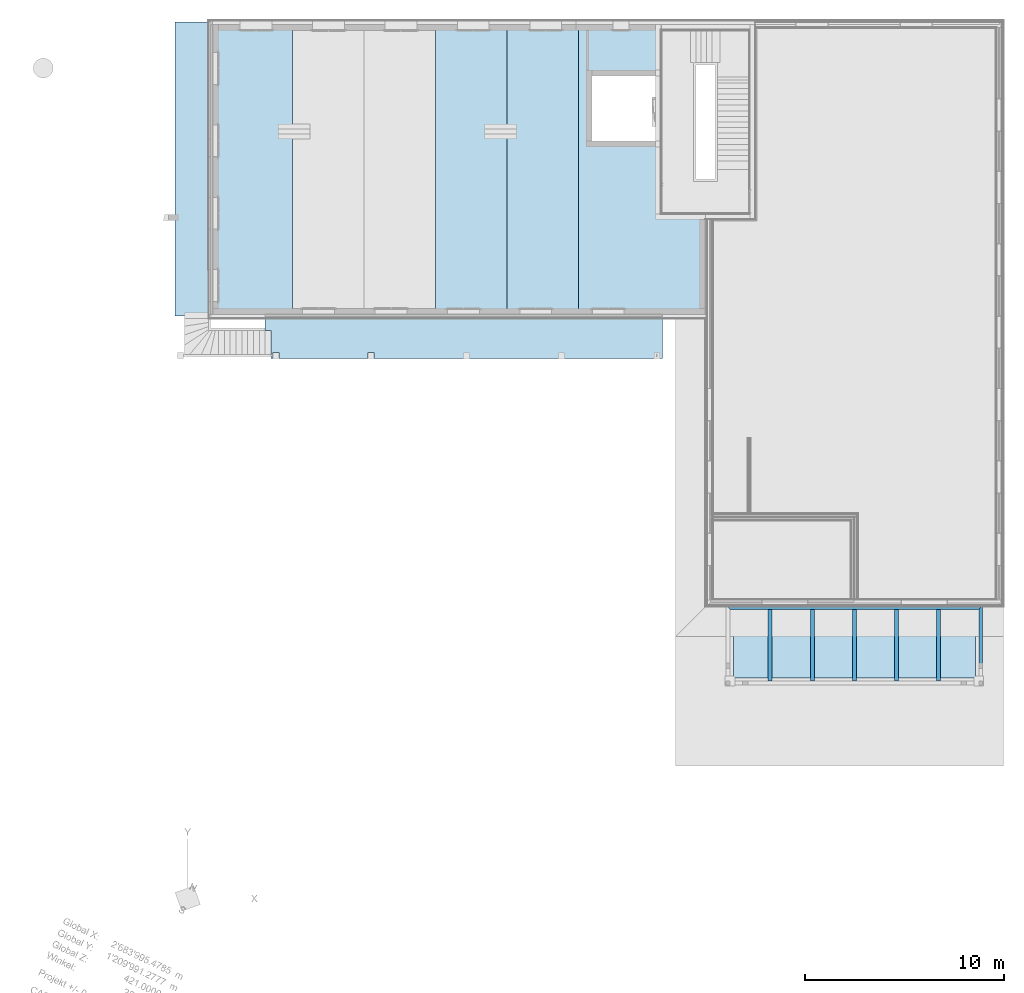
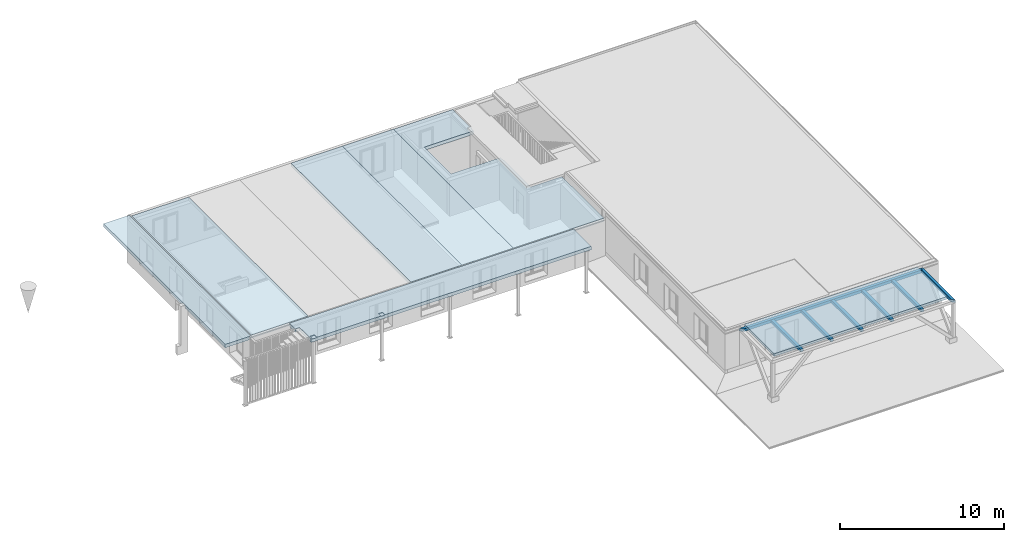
# One storey, part 2 of 20: 7 beams, 7 slabs.
"""IFC4 building model written with IfcOpenShell, lengths in millimetres."""

from ifc_helpers import new_model, entity, si_unit, converted_unit, derived_unit, direction, frame, origin_with_axes, place, context, subcontext, project, spatial, polygons, material, constituent, constituent_set, type_object, element, save


model = new_model("IFC4")

# Units and contexts
model_context = context("Model", 3, precision=0.01, world=origin_with_axes(), true_north=direction((0.0, 1.0)))
body_context = subcontext(model_context, "Body", "Model", "MODEL_VIEW")
ifc_project = project(units=[si_unit("LENGTHUNIT", "METRE", prefix="MILLI"), si_unit("AREAUNIT", "SQUARE_METRE"), si_unit("VOLUMEUNIT", "CUBIC_METRE"), converted_unit("PLANEANGLEUNIT", "DEGREE", entity("IfcPlaneAngleMeasure", 0.0174532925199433), si_unit("PLANEANGLEUNIT", "RADIAN"), dimensions=[0, 0, 0, 0, 0, 0, 0]), converted_unit("TIMEUNIT", "Year", entity("IfcTimeMeasure", 31557600.0), si_unit("TIMEUNIT", "SECOND"), dimensions=[0, 0, 1, 0, 0, 0, 0]), si_unit("MASSUNIT", "GRAM", prefix="KILO"), si_unit("THERMODYNAMICTEMPERATUREUNIT", "DEGREE_CELSIUS"), si_unit("LUMINOUSINTENSITYUNIT", "LUMEN"), si_unit("ENERGYUNIT", "JOULE", prefix="MEGA"), derived_unit("THERMALCONDUCTANCEUNIT", [(si_unit("POWERUNIT", "WATT"), 1), (si_unit("LENGTHUNIT", "METRE"), -1), (si_unit("THERMODYNAMICTEMPERATUREUNIT", "KELVIN"), -1)]), derived_unit("SPECIFICHEATCAPACITYUNIT", [(si_unit("ENERGYUNIT", "JOULE"), 1), (si_unit("MASSUNIT", "GRAM", prefix="KILO"), -1), (si_unit("THERMODYNAMICTEMPERATUREUNIT", "KELVIN"), -1)]), derived_unit("MASSDENSITYUNIT", [(si_unit("MASSUNIT", "GRAM", prefix="KILO"), 1), (si_unit("VOLUMEUNIT", "CUBIC_METRE"), -1)])], contexts=[model_context])

# Site, building, storey
site_placement = place(None, origin_with_axes())
site = spatial("IfcSite", under=ifc_project, at=site_placement, Name="Gelände", CompositionType="ELEMENT")
building_placement = place(site_placement, origin_with_axes())
building = spatial("IfcBuilding", under=site, at=building_placement, Name="Gebäude", CompositionType="ELEMENT")
storey_placement = place(building_placement, frame((0.0, 0.0, 5.198845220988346e-05), z_axis=(0.0, 0.0, 1.0), x_axis=(1.0, 0.0, 0.0)))
storey = spatial("IfcBuildingStorey", under=building, at=storey_placement, Name="EG", CompositionType="ELEMENT", Elevation=0.0)

# Beams
ifc_material_1 = material(Name="Massivholz")
beam_type = type_object("IfcBeamType", Name="Massivholz 200 x 200", PredefinedType="NOTDEFINED")
beam_1_placement = place(storey_placement, frame((21192.99747005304, 8318.597281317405, 3219.999948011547), z_axis=(0.0, 0.0, 1.0), x_axis=(-1.0, 0.0, 0.0)))
element("IfcBeam", 1, at=beam_1_placement, inside=storey, type_object=beam_type, material=ifc_material_1, Name="Unterzug-027", PredefinedType="NOTDEFINED", context=body_context, shape_type="Tessellation", body=[
    polygons([(-100.0000000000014, 0.0, -200.0000000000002), (-100.0000000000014, 3599.999999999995, -200.0000000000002), (99.99999999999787, 3599.999999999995, -200.0000000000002), (100.0000000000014, 0.0, -200.0000000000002), (-100.0000000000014, 0.0, 0.0), (-100.0000000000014, 3599.999999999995, 0.0), (99.99999999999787, 3599.999999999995, 0.0), (100.0000000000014, 0.0, 0.0)], [[[1, 2, 3, 4]], [[5, 6, 2, 1]], [[3, 2, 6, 7]], [[4, 3, 7, 8]], [[5, 1, 4, 8]], [[8, 7, 6, 5]]], closed=True),
])
for number, where, z_axis, x_axis, name in (
    (2, (27546.99741907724, 8318.597281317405, 3219.999948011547), (0.0, 0.0, 1.0), (-1.0, 0.0, 0.0), "Unterzug-027"),
    (3, (29664.99741907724, 8318.597281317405, 3219.999948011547), (0.0, 0.0, 1.0), (-1.0, 0.0, 0.0), "Unterzug-027"),
):
    element("IfcBeam", number, at=place(storey_placement, frame(where, z_axis=z_axis, x_axis=x_axis)), inside=storey, type_object=beam_type, material=ifc_material_1, Name=name, PredefinedType="NOTDEFINED", context=body_context, shape_type="Tessellation", body=[
        polygons([(100.0000000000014, 0.0, 0.0), (99.99999999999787, 3599.999999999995, 0.0), (-100.0000000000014, 3599.999999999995, 0.0), (-100.0000000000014, 0.0, 0.0), (100.0000000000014, 0.0, -200.0000000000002), (99.99999999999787, 3599.999999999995, -200.0000000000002), (-100.0000000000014, 3599.999999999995, -200.0000000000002), (-100.0000000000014, 0.0, -200.0000000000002)], [[[1, 2, 3, 4]], [[5, 6, 2, 1]], [[3, 2, 6, 7]], [[4, 3, 7, 8]], [[5, 1, 4, 8]], [[8, 7, 6, 5]]], closed=True),
    ])
beam_2_placement = place(storey_placement, frame((23310.99747005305, 8318.597281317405, 3219.999948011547), z_axis=(0.0, 0.0, 1.0), x_axis=(-1.0, 0.0, 0.0)))
element("IfcBeam", 4, at=beam_2_placement, inside=storey, type_object=beam_type, material=ifc_material_1, Name="Unterzug-027", PredefinedType="NOTDEFINED", context=body_context, shape_type="Tessellation", body=[
    polygons([(-100.0000000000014, 0.0, -200.0000000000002), (-100.0000000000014, 3599.999999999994, -200.0000000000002), (99.99999999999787, 3599.999999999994, -200.0000000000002), (100.0000000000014, 0.0, -200.0000000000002), (-100.0000000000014, 0.0, 0.0), (-100.0000000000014, 3599.999999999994, 0.0), (99.99999999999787, 3599.999999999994, 0.0), (100.0000000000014, 0.0, 0.0)], [[[1, 2, 3, 4]], [[5, 6, 2, 1]], [[3, 2, 6, 7]], [[4, 3, 7, 8]], [[5, 1, 4, 8]], [[8, 7, 6, 5]]], closed=True),
])
beam_3_placement = place(storey_placement, frame((25428.99744456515, 8318.597281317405, 3219.999948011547), z_axis=(0.0, 0.0, 1.0), x_axis=(-1.0, 0.0, 0.0)))
element("IfcBeam", 5, at=beam_3_placement, inside=storey, type_object=beam_type, material=ifc_material_1, Name="Unterzug-027", PredefinedType="NOTDEFINED", context=body_context, shape_type="Tessellation", body=[
    polygons([(-100.0000000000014, 0.0, -200.0000000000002), (-100.0000000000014, 3599.999999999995, -200.0000000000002), (99.99999999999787, 3599.999999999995, -200.0000000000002), (100.0000000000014, 0.0, -200.0000000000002), (-100.0000000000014, 0.0, 0.0), (-100.0000000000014, 3599.999999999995, 0.0), (99.99999999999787, 3599.999999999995, 0.0), (100.0000000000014, 0.0, 0.0)], [[[1, 2, 3, 4]], [[5, 6, 2, 1]], [[3, 2, 6, 7]], [[4, 3, 7, 8]], [[5, 1, 4, 8]], [[8, 7, 6, 5]]], closed=True),
])
beam_4_placement = place(storey_placement, frame((31882.9974188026, 8518.5972813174, 3219.999948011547), z_axis=(0.0, 0.0, 1.0), x_axis=(-1.0, 0.0, 0.0)))
element("IfcBeam", 6, at=beam_4_placement, inside=storey, type_object=beam_type, material=ifc_material_1, Name="Unterzug-027", PredefinedType="NOTDEFINED", context=body_context, shape_type="Tessellation", body=[
    polygons([(199.9999999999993, 199.9999999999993, 0.0), (199.9999999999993, 3800.000000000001, 0.0), (0.0, 4000.000000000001, 0.0), (0.0, 0.0, 0.0), (199.9999999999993, 199.9999999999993, -200.0000000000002), (199.9999999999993, 3800.000000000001, -200.0000000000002), (0.0, 4000.000000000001, -200.0000000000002), (0.0, 0.0, -200.0000000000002)], [[[1, 2, 3, 4]], [[5, 6, 2, 1]], [[3, 2, 6, 7]], [[4, 3, 7, 8]], [[5, 1, 4, 8]], [[8, 7, 6, 5]]], closed=True),
])
beam_5_placement = place(storey_placement, frame((31882.9974188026, 8518.5972813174, 3219.999948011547), z_axis=(0.0, 0.0, 1.0), x_axis=(0.0, 1.0, 0.0)))
element("IfcBeam", 7, at=beam_5_placement, inside=storey, type_object=beam_type, material=ifc_material_1, Name="Unterzug-027", PredefinedType="NOTDEFINED", context=body_context, shape_type="Tessellation", body=[
    polygons([(-199.9999999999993, 199.9999999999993, -200.0000000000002), (-199.9999999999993, 12707.99994874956, -200.0000000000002), (0.0, 12907.99994874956, -200.0000000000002), (0.0, 0.0, -200.0000000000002), (-199.9999999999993, 199.9999999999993, 0.0), (-199.9999999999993, 12707.99994874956, 0.0), (0.0, 12907.99994874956, 0.0), (0.0, 0.0, 0.0)], [[[1, 2, 3, 4]], [[5, 6, 2, 1]], [[3, 2, 6, 7]], [[4, 3, 7, 8]], [[5, 1, 4, 8]], [[8, 7, 6, 5]]], closed=True),
])

# Slabs
ifc_material_2 = material(Name="Beton bewehrt")
ifc_constituent_1 = constituent(ifc_material_2, Name="Beton bewehrt")
ifc_constituent_set_1 = constituent_set(constituents=[ifc_constituent_1], Name="Geschossdecke Typ 03")
slab_type_1 = type_object("IfcSlabType", Name="Geschossdecke Typ 03 250", PredefinedType="NOTDEFINED")
slab_1_placement = place(storey_placement, frame((4351.995818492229, 23157.59674077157, 2899.999948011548), z_axis=(0.0, 0.0, 1.0), x_axis=(1.0, 0.0, 0.0)))
element("IfcSlab", 8, at=slab_1_placement, inside=storey, type_object=slab_type_1, material=ifc_constituent_set_1, Name="Deckennr.-073", PredefinedType="NOTDEFINED", context=body_context, shape_type="Tessellation", body=[
    polygons([(0.0, 0.0, 0.0), (0.0, 0.0, -250.0), (3600.0, 0.0, -250.0), (3600.0, 0.0, 0.0), (0.0, 14580.00054054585, 0.0), (0.0, 14580.00054054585, -250.0), (3600.0, 14580.00054054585, -250.0), (3600.0, 14580.00054054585, 0.0)], [[[1, 2, 3, 4]], [[5, 6, 2, 1]], [[3, 2, 6, 7]], [[4, 3, 7, 8]], [[5, 1, 4, 8]], [[8, 7, 6, 5]]], closed=True),
])
ifc_constituent_2 = constituent(ifc_material_2, Name="Beton bewehrt")
ifc_constituent_set_2 = constituent_set(constituents=[ifc_constituent_2], Name="Geschossdecke Typ 03")
slab_2_placement = place(storey_placement, frame((7951.995818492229, 23157.59674077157, 2899.999948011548), z_axis=(0.0, 0.0, 1.0), x_axis=(1.0, 0.0, 0.0)))
element("IfcSlab", 9, at=slab_2_placement, inside=storey, type_object=slab_type_1, material=ifc_constituent_set_2, Name="Deckennr.-073", PredefinedType="NOTDEFINED", context=body_context, shape_type="Tessellation", body=[
    polygons([(0.0, 0.0, 0.0), (0.0, 0.0, -250.0), (3600.0, 0.0, -250.0), (3600.0, 0.0, 0.0), (0.0, 14580.00054054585, 0.0), (0.0, 14580.00054054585, -250.0), (3600.0, 14580.00054054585, -250.0), (3600.0, 14580.00054054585, 0.0)], [[[1, 2, 3, 4]], [[5, 6, 2, 1]], [[3, 2, 6, 7]], [[4, 3, 7, 8]], [[5, 1, 4, 8]], [[8, 7, 6, 5]]], closed=True),
])
ifc_constituent_3 = constituent(ifc_material_2, Name="Beton bewehrt")
ifc_constituent_set_3 = constituent_set(constituents=[ifc_constituent_3], Name="Geschossdecke Typ 03")
slab_3_placement = place(storey_placement, frame((-6861.004181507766, 37737.59728131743, 2899.999948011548), z_axis=(0.0, 0.0, 1.0), x_axis=(1.0, 0.0, 0.0)))
element("IfcSlab", 10, at=slab_3_placement, inside=storey, type_object=slab_type_1, material=ifc_constituent_set_3, Name="Deckennr.-073", PredefinedType="NOTDEFINED", context=body_context, shape_type="Tessellation", body=[
    polygons([(0.0, 0.0, 0.0), (0.0, 0.0, -250.0), (0.0, -14580.00054054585, -250.0), (0.0, -14580.00054054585, 0.0), (4012.999999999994, 0.0, 0.0), (4012.999999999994, 0.0, -250.0), (4012.999999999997, -14580.00054054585, -250.0), (4012.999999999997, -14580.00054054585, 0.0)], [[[1, 2, 3, 4]], [[5, 6, 2, 1]], [[3, 2, 6, 7]], [[4, 3, 7, 8]], [[5, 1, 4, 8]], [[8, 7, 6, 5]]], closed=True),
])
ifc_constituent_4 = constituent(ifc_material_2, Name="Beton bewehrt")
ifc_constituent_set_4 = constituent_set(constituents=[ifc_constituent_4], Name="Geschossdecke Typ 03")
slab_4_placement = place(storey_placement, frame((11551.99581849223, 23157.59674077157, 2899.999948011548), z_axis=(0.0, 0.0, 1.0), x_axis=(1.0, 0.0, 0.0)))
element("IfcSlab", 11, at=slab_4_placement, inside=storey, type_object=slab_type_1, material=ifc_constituent_set_4, Name="Deckennr.-073", PredefinedType="NOTDEFINED", context=body_context, shape_type="Tessellation", body=[
    polygons([(4177.00162627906, 5090.00054054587, -250.0), (4177.001626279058, 8415.000540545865, -250.0), (4177.001626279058, 8415.000540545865, 0.0), (4177.00162627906, 5090.00054054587, 0.0), (4137.001626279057, 8715.000540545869, -250.0), (4137.001626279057, 8415.000540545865, -250.0), (6368.001626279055, 5090.00054054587, -250.0), (6368.001626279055, 0.0, -250.0), (0.0, 0.0, -250.0), (0.0, 14580.00054054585, -250.0), (4177.001626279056, 14580.00054054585, -250.0), (4177.001626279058, 12290.00054054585, -250.0), (4137.001626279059, 12290.00054054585, -250.0), (4137.001626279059, 11990.00054054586, -250.0), (677.0016262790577, 11990.00054054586, -250.0), (677.0016262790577, 8715.000540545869, -250.0), (4137.001626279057, 8415.000540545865, 0.0), (4137.001626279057, 8715.000540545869, 0.0), (677.0016262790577, 8715.000540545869, 0.0), (677.0016262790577, 11990.00054054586, 0.0), (4137.001626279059, 11990.00054054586, 0.0), (4137.001626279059, 12290.00054054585, 0.0), (4177.001626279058, 12290.00054054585, 0.0), (4177.001626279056, 14580.00054054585, 0.0), (0.0, 14580.00054054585, 0.0), (0.0, 0.0, 0.0), (6368.001626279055, 0.0, 0.0), (6368.001626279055, 5090.00054054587, 0.0)], [[[1, 2, 3, 4]], [[5, 6, 2, 1, 7, 8, 9, 10, 11, 12, 13, 14, 15, 16]], [[6, 17, 3, 2]], [[3, 17, 18, 19, 20, 21, 22, 23, 24, 25, 26, 27, 28, 4]], [[4, 28, 7, 1]], [[6, 5, 18, 17]], [[28, 27, 8, 7]], [[27, 26, 9, 8]], [[26, 25, 10, 9]], [[25, 24, 11, 10]], [[24, 23, 12, 11]], [[13, 12, 23, 22]], [[13, 22, 21, 14]], [[15, 14, 21, 20]], [[20, 19, 16, 15]], [[19, 18, 5, 16]]], closed=True),
])
ifc_material_3 = material(Name="Brettschichtholz BSH")
ifc_constituent_5 = constituent(ifc_material_3, Name="Brettschichtholz BSH")
ifc_constituent_set_5 = constituent_set(constituents=[ifc_constituent_5], Name="Geschossdecke Typ 02")
slab_type_2 = type_object("IfcSlabType", Name="Geschossdecke Typ 02 180", PredefinedType="NOTDEFINED")
slab_5_placement = place(storey_placement, frame((19063.99747005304, 4607.5972813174, 3399.999948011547), z_axis=(0.0, 0.0, 1.0), x_axis=(1.0, 0.0, 0.0)))
element("IfcSlab", 12, at=slab_5_placement, inside=storey, type_object=slab_type_2, material=ifc_constituent_set_5, Name="Deckennr.-073", PredefinedType="NOTDEFINED", context=body_context, shape_type="Tessellation", body=[
    polygons([(12454.99994874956, 275.0000000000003, 0.0), (12454.99994874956, 275.0000000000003, -180.0000000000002), (12454.99994874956, 3840.000000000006, -180.0000000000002), (12454.99994874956, 3840.000000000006, 0.0), (274.9999999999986, 275.0000000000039, 0.0), (274.9999999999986, 275.0000000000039, -180.0000000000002), (12429.99994874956, 3911.000000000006, -180.0000000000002), (12429.99994874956, 3840.000000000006, -180.0000000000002), (274.9999999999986, 3911.000000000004, -180.0000000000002), (12429.99994874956, 3840.000000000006, 0.0), (12429.99994874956, 3911.000000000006, 0.0), (274.9999999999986, 3911.000000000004, 0.0)], [[[1, 2, 3, 4]], [[5, 6, 2, 1]], [[7, 8, 3, 2, 6, 9]], [[8, 10, 4, 3]], [[5, 1, 4, 10, 11, 12]], [[9, 6, 5, 12]], [[10, 8, 7, 11]], [[9, 12, 11, 7]]], closed=True),
])
ifc_constituent_6 = constituent(ifc_material_2, Name="Beton bewehrt")
ifc_constituent_set_6 = constituent_set(constituents=[ifc_constituent_6], Name="Balkon Typ 01")
slab_type_3 = type_object("IfcSlabType", Name="Balkon Typ 01 250", PredefinedType="NOTDEFINED")
slab_6_placement = place(storey_placement, frame((-8741.00418150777, 37867.5972813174, 2899.999948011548), z_axis=(0.0, 0.0, 1.0), x_axis=(1.0, 0.0, 0.0)))
element("IfcSlab", 13, at=slab_6_placement, inside=storey, type_object=slab_type_3, material=ifc_constituent_set_6, Name="Deckennr.-073", PredefinedType="NOTDEFINED", context=body_context, shape_type="Tessellation", body=[
    polygons([(0.0, 0.0, 0.0), (0.0, 0.0, -250.0), (0.0, -14790.00054054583, -250.0), (0.0, -14790.00054054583, 0.0), (1800.000000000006, 0.0, 0.0), (1800.000000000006, 0.0, -250.0), (1800.000000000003, -14790.00054054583, -250.0), (1800.000000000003, -14790.00054054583, 0.0)], [[[1, 2, 3, 4]], [[5, 6, 2, 1]], [[3, 2, 6, 7]], [[4, 3, 7, 8]], [[5, 1, 4, 8]], [[8, 7, 6, 5]]], closed=True),
])
ifc_constituent_7 = constituent(ifc_material_2, Name="Beton bewehrt")
ifc_constituent_set_7 = constituent_set(constituents=[ifc_constituent_7], Name="Balkon Typ 01")
slab_7_placement = place(storey_placement, frame((-4228.246602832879, 22357.59674452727, 2899.999948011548), z_axis=(0.0, 0.0, 1.0), x_axis=(1.0, 0.0, 0.0)))
element("IfcSlab", 14, at=slab_7_placement, inside=storey, type_object=slab_type_3, material=ifc_constituent_set_7, Name="Deckennr.-073", PredefinedType="NOTDEFINED", context=body_context, shape_type="Tessellation", body=[
    polygons([(303.0423884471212, -1410.000003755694, 0.0), (403.0424213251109, -1410.000003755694, 0.0), (403.0424213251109, -1110.000003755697, 0.0), (703.0424213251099, -1110.000003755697, 0.0), (703.0424213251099, -1410.000003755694, 0.0), (5193.84242132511, -1410.000003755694, -5.19884539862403e-05), (5193.84242132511, -1110.000003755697, -5.19884539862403e-05), (5493.842421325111, -1110.000003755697, -5.19884539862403e-05), (5493.842421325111, -1410.000003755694, -5.19884539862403e-05), (19991.24242132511, -1410.000003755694, 0.0), (19991.24242132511, 719.9999575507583, 0.0), (0.0, 719.9999575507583, 0.0), (0.0, 0.0, 0.0), (303.0423884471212, 0.0, 0.0), (703.0424213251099, -1410.000003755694, -30.00000000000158), (403.0424213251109, -1410.000003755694, -30.00000000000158), (303.0423884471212, -1410.000003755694, -250.0), (19991.24242132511, -1410.000003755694, -250.0), (5493.842421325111, -1410.000003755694, -30.00005198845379), (5193.84242132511, -1410.000003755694, -30.00005198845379), (403.0424213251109, -1110.000003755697, -30.00000000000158), (703.0424213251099, -1110.000003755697, -30.00000000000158), (5193.84242132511, -1110.000003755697, -30.00005198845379), (5493.842421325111, -1110.000003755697, -30.00005198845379), (19991.24242132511, 719.9999575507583, -250.0), (0.0, 719.9999575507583, -250.0), (0.0, 0.0, -250.0), (303.0423884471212, 0.0, -250.0)], [[[1, 2, 3, 4, 5, 6, 7, 8, 9, 10, 11, 12, 13, 14]], [[15, 16, 2, 1, 17, 18, 10, 9, 19, 20, 6, 5]], [[21, 3, 2, 16]], [[22, 4, 3, 21]], [[15, 5, 4, 22]], [[23, 7, 6, 20]], [[24, 8, 7, 23]], [[19, 9, 8, 24]], [[11, 10, 18, 25]], [[12, 11, 25, 26]], [[13, 12, 26, 27]], [[14, 13, 27, 28]], [[1, 14, 28, 17]], [[21, 16, 15, 22]], [[17, 28, 27, 26, 25, 18]], [[23, 20, 19, 24]]], closed=True),
])

save(model, "model.ifc")
